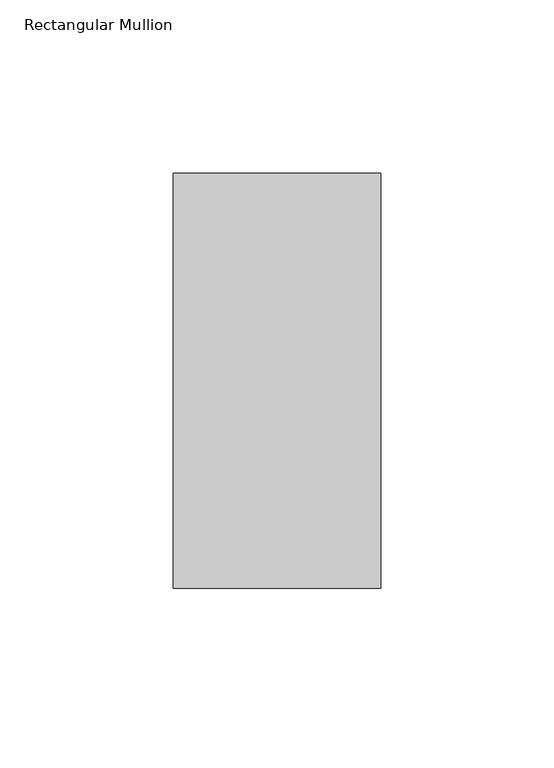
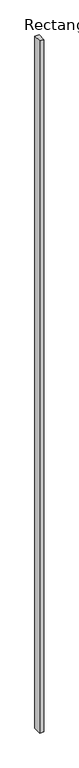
"""IFC4 building model written with IfcOpenShell, lengths in millimetres: member geometry, Rectangular Mullion : Terça."""

from ifc_helpers import new_model, si_unit, frame, origin, place, context, project, spatial, polyline, outline, extrude, source, transform, mapped, element, save


def rectangular_mullion_407ae3eb(model_context):
    return source(origin(), model_context, "Body", "SweptSolid", [
        extrude(outline(polyline([(30.0, -120.0), (-30.0, -120.0), (-30.0, 0.0), (30.0, 0.0), (30.0, -120.0)])), frame((0.0, 0.0, -10660.1380994), z_axis=(0.0, 0.0, 1.0), x_axis=(1.0, 0.0, 0.0)), (0.0, 0.0, 1.0), 10660.1380994),
    ])


if __name__ == "__main__":
    model = new_model("IFC4")
    model_context = context("Model", 3, world=origin())
    ifc_project = project(units=[si_unit("LENGTHUNIT", "METRE", prefix="MILLI")], contexts=[model_context])
    site = spatial("IfcSite", under=ifc_project)
    building = spatial("IfcBuilding", under=site)
    placement = place(None, origin())
    rectangular_mullion_shape = rectangular_mullion_407ae3eb(model_context)
    element("IfcMember", 1, ObjectType="Rectangular Mullion : Terça", at=placement, inside=building, context=model_context, shape_type="MappedRepresentation", body=[
        mapped(rectangular_mullion_shape, transform((0.0, 0.0, 0.0), x_axis=(1.0, 0.0, 0.0), y_axis=(0.0, 1.0, 0.0), z_axis=(0.0, 0.0, 1.0))),
    ])
    save(model, "model.ifc")
